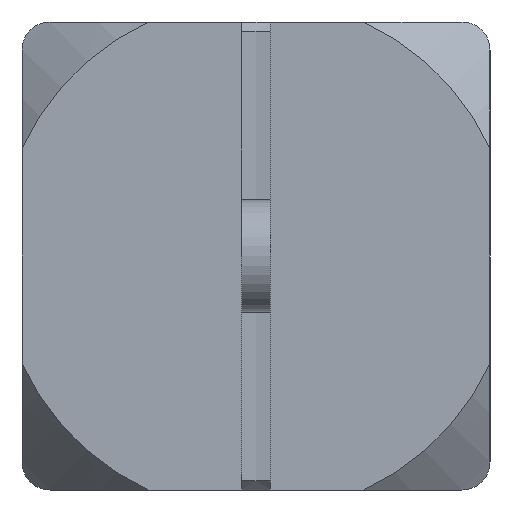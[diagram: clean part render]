
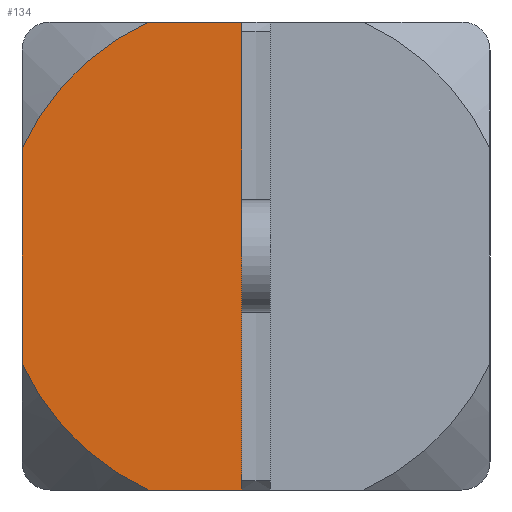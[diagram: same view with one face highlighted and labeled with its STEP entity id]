
A CAD part, left-side view. The second image highlights one B-rep face of the part: STEP entity #134.
In plain terms, the highlighted planar face has unit normal (-1, 0, 0).
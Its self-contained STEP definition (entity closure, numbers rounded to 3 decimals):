
#134 = ADVANCED_FACE( '', ( #325 ), #326, .F. );
#325 = FACE_OUTER_BOUND( '', #565, .T. );
#326 = PLANE( '', #566 );
#565 = EDGE_LOOP( '', ( #1130, #1131, #1132, #1133, #1134, #1135 ) );
#566 = AXIS2_PLACEMENT_3D( '', #1136, #1137, #1138 );
#1130 = ORIENTED_EDGE( '', *, *, #1705, .F. );
#1131 = ORIENTED_EDGE( '', *, *, #1706, .F. );
#1132 = ORIENTED_EDGE( '', *, *, #1699, .F. );
#1133 = ORIENTED_EDGE( '', *, *, #1586, .T. );
#1134 = ORIENTED_EDGE( '', *, *, #1696, .F. );
#1135 = ORIENTED_EDGE( '', *, *, #1673, .T. );
#1136 = CARTESIAN_POINT( '', ( -21.5, 12.5, 12.5 ) );
#1137 = DIRECTION( '', ( 1., 0., 0. ) );
#1138 = DIRECTION( '', ( 0., 0., -1. ) );
#1586 = EDGE_CURVE( '', #1924, #1922, #1925, .T. );
#1673 = EDGE_CURVE( '', #2078, #2076, #2079, .T. );
#1696 = EDGE_CURVE( '', #2078, #1922, #2114, .T. );
#1699 = EDGE_CURVE( '', #1924, #2115, #2119, .T. );
#1705 = EDGE_CURVE( '', #2127, #2076, #2128, .T. );
#1706 = EDGE_CURVE( '', #2115, #2127, #2129, .T. );
#1922 = VERTEX_POINT( '', #2523 );
#1924 = VERTEX_POINT( '', #2530 );
#1925 = LINE( '', #2531, #2532 );
#2076 = VERTEX_POINT( '', #2759 );
#2078 = VERTEX_POINT( '', #2762 );
#2079 = LINE( '', #2763, #2764 );
#2114 = CIRCLE( '', #2853, 13.75 );
#2115 = VERTEX_POINT( '', #2854 );
#2119 = CIRCLE( '', #2874, 13.75 );
#2127 = VERTEX_POINT( '', #2900 );
#2128 = LINE( '', #2901, #2902 );
#2129 = LINE( '', #2903, #2904 );
#2523 = CARTESIAN_POINT( '', ( -21.5, 12.5, -5.728 ) );
#2530 = CARTESIAN_POINT( '', ( -21.5, 12.5, 5.728 ) );
#2531 = CARTESIAN_POINT( '', ( -21.5, 12.5, 12.5 ) );
#2532 = VECTOR( '', #3153, 1000. );
#2759 = CARTESIAN_POINT( '', ( -21.5, 0.75, -12.5 ) );
#2762 = CARTESIAN_POINT( '', ( -21.5, 5.728, -12.5 ) );
#2763 = CARTESIAN_POINT( '', ( -21.5, 12.5, -12.5 ) );
#2764 = VECTOR( '', #3293, 1000. );
#2853 = AXIS2_PLACEMENT_3D( '', #3325, #3326, #3327 );
#2854 = CARTESIAN_POINT( '', ( -21.5, 5.728, 12.5 ) );
#2874 = AXIS2_PLACEMENT_3D( '', #3328, #3329, #3330 );
#2900 = CARTESIAN_POINT( '', ( -21.5, 0.75, 12.5 ) );
#2901 = CARTESIAN_POINT( '', ( -21.5, 0.75, 12.5 ) );
#2902 = VECTOR( '', #3336, 1000. );
#2903 = CARTESIAN_POINT( '', ( -21.5, 12.5, 12.5 ) );
#2904 = VECTOR( '', #3337, 1000. );
#3153 = DIRECTION( '', ( 0., 0., -1. ) );
#3293 = DIRECTION( '', ( 0., -1., 0. ) );
#3325 = CARTESIAN_POINT( '', ( -21.5, 0., 0. ) );
#3326 = DIRECTION( '', ( 1., 0., 0. ) );
#3327 = DIRECTION( '', ( 0., 0., -1. ) );
#3328 = CARTESIAN_POINT( '', ( -21.5, 0., 0. ) );
#3329 = DIRECTION( '', ( 1., 0., 0. ) );
#3330 = DIRECTION( '', ( 0., 0., -1. ) );
#3336 = DIRECTION( '', ( 0., 0., -1. ) );
#3337 = DIRECTION( '', ( 0., -1., 0. ) );
